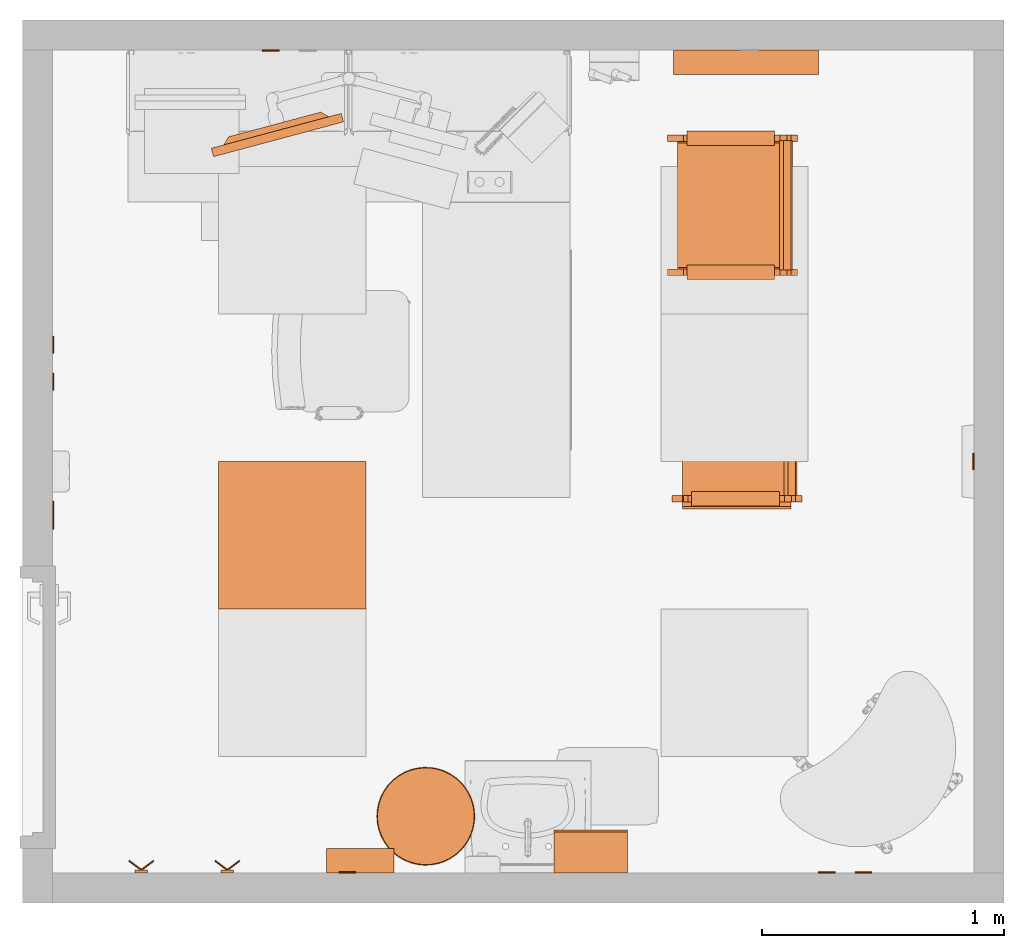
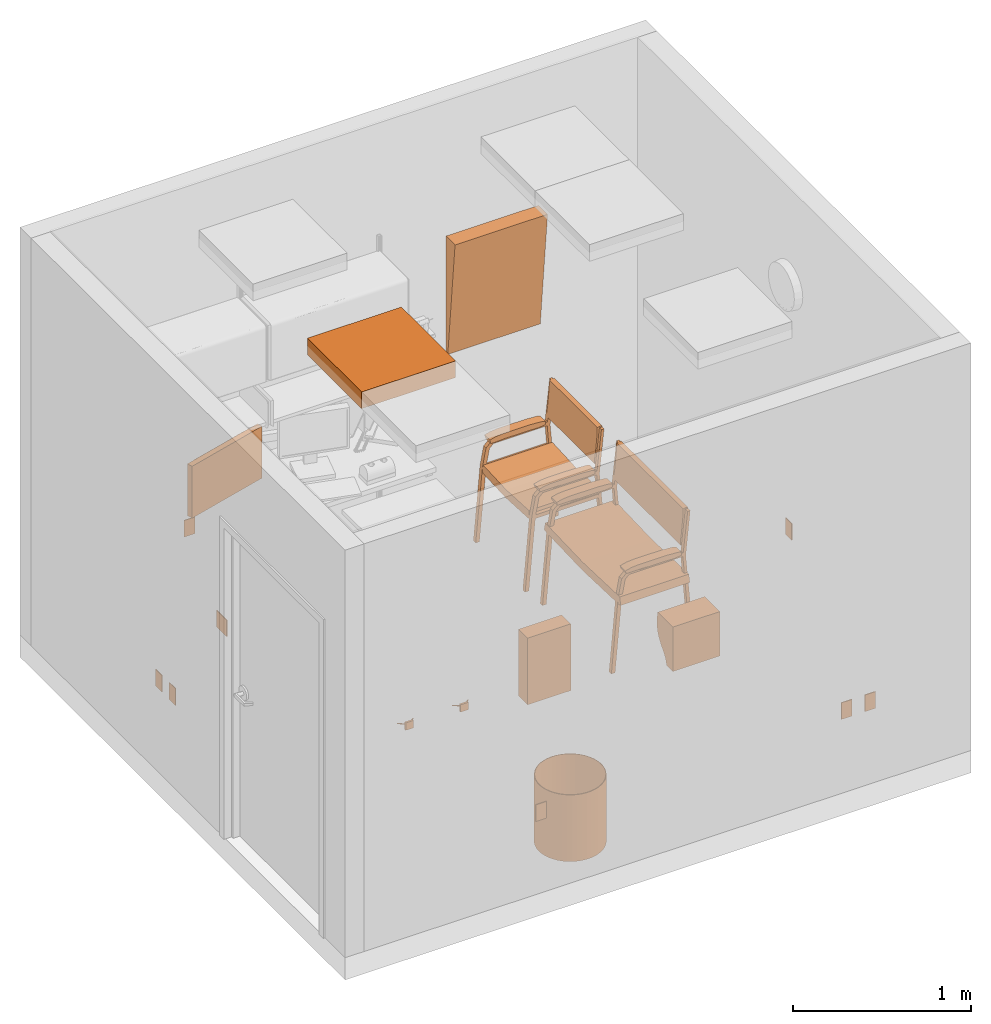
# One storey, part 5 of 9: 18 proxies.
"""IFC2X3 building model written with IfcOpenShell, lengths in feet."""

from ifc_helpers import new_model, entity, si_unit, converted_unit, derived_unit, direction, frame, frame_2d, origin, origin_2d_with_axis, place, context, subcontext, project, spatial, polyline, rectangle, circle, hollow_circle, outline, extrude, source, transform, mapped, type_object, type_shapes, element, save


model = new_model("IFC2X3")

# Units and contexts
model_context = context("Model", 3, precision=0.0001, world=origin(), true_north=direction((6.12303176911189e-17, 1.0)))
body_context = subcontext(model_context, "Body", "Model", "MODEL_VIEW")
ifc_project = project(units=[converted_unit("LENGTHUNIT", "FOOT", entity("IfcRatioMeasure", 0.3048), si_unit("LENGTHUNIT", "METRE"), dimensions=[1, 0, 0, 0, 0, 0, 0]), converted_unit("AREAUNIT", "SQUARE FOOT", entity("IfcRatioMeasure", 0.09290304), si_unit("AREAUNIT", "SQUARE_METRE"), dimensions=[2, 0, 0, 0, 0, 0, 0]), converted_unit("VOLUMEUNIT", "CUBIC FOOT", entity("IfcRatioMeasure", 0.028316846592), si_unit("VOLUMEUNIT", "CUBIC_METRE"), dimensions=[3, 0, 0, 0, 0, 0, 0]), converted_unit("PLANEANGLEUNIT", "DEGREE", entity("IfcRatioMeasure", 0.0174532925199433), si_unit("PLANEANGLEUNIT", "RADIAN"), dimensions=[0, 0, 0, 0, 0, 0, 0]), si_unit("MASSUNIT", "GRAM", prefix="KILO"), derived_unit("MASSDENSITYUNIT", [(si_unit("MASSUNIT", "GRAM", prefix="KILO"), 1), (si_unit("LENGTHUNIT", "METRE"), -3)]), si_unit("TIMEUNIT", "SECOND"), si_unit("FREQUENCYUNIT", "HERTZ"), si_unit("THERMODYNAMICTEMPERATUREUNIT", "DEGREE_CELSIUS"), derived_unit("THERMALTRANSMITTANCEUNIT", [(si_unit("MASSUNIT", "GRAM", prefix="KILO"), 1), (si_unit("THERMODYNAMICTEMPERATUREUNIT", "KELVIN"), -1), (si_unit("TIMEUNIT", "SECOND"), -3)]), derived_unit("VOLUMETRICFLOWRATEUNIT", [(si_unit("LENGTHUNIT", "METRE"), 3), (si_unit("TIMEUNIT", "SECOND"), -1)]), si_unit("ELECTRICCURRENTUNIT", "AMPERE"), si_unit("ELECTRICVOLTAGEUNIT", "VOLT"), si_unit("POWERUNIT", "WATT"), si_unit("FORCEUNIT", "NEWTON"), si_unit("ILLUMINANCEUNIT", "LUX"), si_unit("LUMINOUSFLUXUNIT", "LUMEN"), si_unit("LUMINOUSINTENSITYUNIT", "CANDELA"), derived_unit("USERDEFINED", [(si_unit("MASSUNIT", "GRAM", prefix="KILO"), -1), (si_unit("LENGTHUNIT", "METRE"), -2), (si_unit("TIMEUNIT", "SECOND"), 3), (si_unit("LUMINOUSFLUXUNIT", "LUMEN"), 1)]), derived_unit("LINEARVELOCITYUNIT", [(si_unit("LENGTHUNIT", "METRE"), 1), (si_unit("TIMEUNIT", "SECOND"), -1)]), si_unit("PRESSUREUNIT", "PASCAL"), derived_unit("USERDEFINED", [(si_unit("LENGTHUNIT", "METRE"), -2), (si_unit("MASSUNIT", "GRAM", prefix="KILO"), 1), (si_unit("TIMEUNIT", "SECOND"), -2)])], contexts=[model_context])

# Site, building, storey, space
site_placement = place(None, origin())
site = spatial("IfcSite", under=ifc_project, at=site_placement, Name="Default", CompositionType="ELEMENT")
building_placement = place(site_placement, origin())
building = spatial("IfcBuilding", under=site, at=building_placement, Name="AUDIOLOGY AND SPEECH PATHOLOGY (Ch. 204)", CompositionType="ELEMENT")
storey_placement = place(building_placement, frame((0.0, 0.0, 42.0)))
storey = spatial("IfcBuildingStorey", under=building, at=storey_placement, Name="AUD01 - Audiology Rehabilitation/Counseling", CompositionType="ELEMENT", Elevation=42.0)
space_placement = place(storey_placement, origin())
space = spatial("IfcSpace", under=storey, at=space_placement, Name="(AUD01)", CompositionType="ELEMENT", InteriorOrExteriorSpace="INTERNAL")

# Proxies
building_element_proxy_type_1 = type_object("IfcBuildingElementProxyType", Name="F0206 - Chair, Side, Bariatric, With Arms", PredefinedType="NOTDEFINED")
shared_shape_1 = source(origin(), body_context, "Body", "SweptSolid", [
    extrude(outline(polyline([(-0.525375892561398, -0.22108566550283), (-0.458078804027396, -0.22108566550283), (-0.207181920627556, -0.147567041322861), (0.350995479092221, 0.0555929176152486), (0.480353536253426, 0.11448774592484), (0.591192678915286, 0.190054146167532), (0.551062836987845, 0.246221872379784), (0.114629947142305, 0.0873732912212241), (0.281514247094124, 0.159069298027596), (-0.219577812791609, -0.0233132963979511), (-0.409888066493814, -0.0853441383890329), (-0.549646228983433, -0.154403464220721), (-0.525375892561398, -0.22108566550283)])), frame((-0.0140257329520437, -1.36732903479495, 2.23169271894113), z_axis=(0.0, 1.0, 0.0), x_axis=(0.939692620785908, 0.0, 0.34202014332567)), (0.0, 0.0, 1.0), 0.196499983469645),
    extrude(outline(polyline([(0.0166377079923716, -0.666422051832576), (0.0999710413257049, -0.666422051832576), (-0.0172324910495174, 0.673220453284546), (-0.0993762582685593, 0.659623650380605), (0.0166377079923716, -0.666422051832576)])), frame((-0.0157757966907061, -1.30726241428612, 1.61480726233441), z_axis=(0.0, 1.0, 0.0), x_axis=(0.0871557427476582, 0.0, -0.996194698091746)), (0.0, 0.0, 1.0), 0.0833333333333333),
    extrude(outline(polyline([(0.811855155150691, -1.61770011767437), (0.895188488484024, -1.61770011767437), (0.71143329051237, 0.489199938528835), (0.806416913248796, 1.46713632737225), (0.751033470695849, 1.46713632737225), (0.656855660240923, 0.571094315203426), (-0.516612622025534, 0.571094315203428), (-0.653571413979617, 0.441277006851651), (-0.728375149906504, 0.0391907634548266), (-0.871611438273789, -1.61770011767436), (-0.791571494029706, -1.61770011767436), (-0.646611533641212, 0.0391998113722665), (-0.578172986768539, 0.407071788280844), (-0.496044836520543, 0.48919993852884), (0.649788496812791, 0.489199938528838), (0.811855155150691, -1.61770011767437)])), frame((0.002897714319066, -1.3125, 1.61770011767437), z_axis=(0.0, 1.0, 0.0), x_axis=(-1.0, 0.0, 0.0)), (0.0, 0.0, 1.0), 0.0885709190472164),
    extrude(outline(polyline([(-0.104007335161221, -0.374369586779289), (-0.0277118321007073, -0.374369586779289), (-0.0197350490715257, -0.338348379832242), (0.00592434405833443, -0.182113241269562), (0.0162560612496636, -0.135457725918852), (0.045782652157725, -0.00212284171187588), (0.0856087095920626, 0.177721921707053), (0.112798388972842, 0.276572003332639), (0.120257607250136, 0.307674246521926), (0.129202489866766, 0.415216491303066), (0.0455811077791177, 0.433734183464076), (0.0167028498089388, 0.395704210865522), (-0.0364083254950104, 0.222671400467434), (-0.125070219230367, -0.177704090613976), (-0.136828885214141, -0.275386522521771), (-0.128352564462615, -0.369422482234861), (-0.104007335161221, -0.374369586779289)])), frame((-0.724492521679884, -1.22392908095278, 2.73061112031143), z_axis=(0.0, 1.0, 0.0), x_axis=(0.991475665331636, 0.0, -0.130291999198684)), (0.0, 0.0, 1.0), 2.44785816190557),
    extrude(outline(polyline([(-1.32676821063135, 0.0527806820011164), (-1.3765169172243, 0.0492842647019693), (-1.40814174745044, -0.118079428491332), (-1.33993034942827, -0.135060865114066), (0.00476598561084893, -0.135112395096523), (1.34611651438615, -0.0403126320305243), (1.41296185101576, -0.0185671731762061), (1.36962304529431, 0.146152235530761), (1.31975162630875, 0.146134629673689), (-0.00186179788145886, 0.0527806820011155), (-1.32676821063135, 0.0527806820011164)])), frame((-0.738902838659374, 0.0, 1.61978043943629), z_axis=(-1.0, 0.0, 0.0), x_axis=(0.0, -0.999378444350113, -0.035252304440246)), (0.0, 0.0, -1.0), 1.47211210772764),
    extrude(outline(polyline([(-0.525375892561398, -0.22108566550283), (-0.458078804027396, -0.22108566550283), (-0.207181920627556, -0.147567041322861), (0.350995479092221, 0.0555929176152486), (0.480353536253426, 0.11448774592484), (0.591192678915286, 0.190054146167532), (0.551062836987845, 0.246221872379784), (0.114629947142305, 0.0873732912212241), (0.281514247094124, 0.159069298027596), (-0.219577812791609, -0.023313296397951), (-0.409888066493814, -0.0853441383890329), (-0.549646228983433, -0.154403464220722), (-0.525375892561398, -0.22108566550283)])), frame((-0.0140257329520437, 1.1708290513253, 2.23169271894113), z_axis=(0.0, 1.0, 0.0), x_axis=(0.939692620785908, 0.0, 0.34202014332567)), (0.0, 0.0, 1.0), 0.196499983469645),
    extrude(outline(polyline([(0.016637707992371, -0.666422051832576), (0.0999710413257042, -0.666422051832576), (-0.0172324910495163, 0.673220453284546), (-0.0993762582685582, 0.659623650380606), (0.016637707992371, -0.666422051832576)])), frame((-0.0157757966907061, 1.22392908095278, 1.61480726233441), z_axis=(0.0, 1.0, 0.0), x_axis=(0.0871557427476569, 0.0, -0.996194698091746)), (0.0, 0.0, 1.0), 0.0833333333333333),
    extrude(outline(polyline([(0.811855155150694, -1.61770011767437), (0.895188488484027, -1.61770011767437), (0.711433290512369, 0.489199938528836), (0.806416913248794, 1.46713632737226), (0.751033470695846, 1.46713632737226), (0.656855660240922, 0.571094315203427), (-0.516612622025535, 0.571094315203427), (-0.653571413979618, 0.441277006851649), (-0.728375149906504, 0.0391907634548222), (-0.871611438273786, -1.61770011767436), (-0.791571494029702, -1.61770011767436), (-0.646611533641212, 0.0391998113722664), (-0.57817298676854, 0.407071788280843), (-0.496044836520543, 0.489199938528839), (0.64978849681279, 0.489199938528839), (0.811855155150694, -1.61770011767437)])), frame((0.00289771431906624, 1.22392908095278, 1.61770011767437), z_axis=(0.0, 1.0, 0.0), x_axis=(-1.0, 0.0, 0.0)), (0.0, 0.0, 1.0), 0.0885709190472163),
])
type_shapes(building_element_proxy_type_1, [shared_shape_1])
proxy_1_placement = place(space_placement, frame((8.45229296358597, 6.94218622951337, 0.0), z_axis=(0.0, 0.0, 1.0), x_axis=(-1.0, 0.0, 0.0)))
element("IfcBuildingElementProxy", 1, at=proxy_1_placement, inside=space, type_object=building_element_proxy_type_1, Name="F0206 - Chair, Side, Bariatric, With Arms:F0206 - Chair, Side, Bariatric, With Arms", ObjectType="F0206 - Chair, Side, Bariatric, With Arms", context=body_context, shape_type="MappedRepresentation", body=[
    mapped(shared_shape_1, transform((0.0, 0.0, 0.0), scale=1.0)),
])
building_element_proxy_type_2 = type_object("IfcBuildingElementProxyType", Name="A5082 - Dispenser, Paper Towel, Sensor, Hands Free", PredefinedType="NOTDEFINED")
shared_shape_2 = source(origin(), body_context, "Body", "SweptSolid", [
    extrude(outline(polyline([(-0.394840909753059, -0.5716804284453), (0.162901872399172, -0.5716804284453), (0.181242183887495, -0.466986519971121), (0.189922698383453, -0.373421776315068), (0.189954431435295, -0.2899834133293), (0.182348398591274, -0.215668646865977), (0.168115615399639, -0.149474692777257), (0.148267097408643, -0.0903987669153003), (0.123813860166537, -0.0374380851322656), (0.095766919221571, 0.0104101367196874), (0.0651372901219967, 0.0541486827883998), (0.0329359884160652, 0.0947803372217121), (0.000174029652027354, 0.133307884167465), (-0.0321375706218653, 0.1707341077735), (-0.0629877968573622, 0.208061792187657), (-0.0913656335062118, 0.246293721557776), (-0.116260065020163, 0.2864326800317), (-0.136660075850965, 0.329481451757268), (-0.151554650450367, 0.376442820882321), (-0.159932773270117, 0.4283195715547), (-0.394840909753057, 0.428319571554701), (-0.394840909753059, -0.5716804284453)])), frame((0.0, -0.394840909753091, 0.428319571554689), z_axis=(1.0, 0.0, 0.0), x_axis=(0.0, -1.0, 0.0)), (0.0, 0.0, 1.0), 1.0),
])
type_shapes(building_element_proxy_type_2, [shared_shape_2])
proxy_2_placement = place(space_placement, frame((6.97770139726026, 0.593750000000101, 3.66666666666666), z_axis=(0.0, 0.0, 1.0), x_axis=(-1.0, 0.0, 0.0)))
element("IfcBuildingElementProxy", 2, at=proxy_2_placement, inside=space, type_object=building_element_proxy_type_2, Name="A5082 - Dispenser, Paper Towel, Sensor, Hands Free:A5082 - Dispenser, Paper Towel, Sensor, Hands Free", ObjectType="A5082 - Dispenser, Paper Towel, Sensor, Hands Free", context=body_context, shape_type="MappedRepresentation", body=[
    mapped(shared_shape_2, transform((0.0, 0.0, 0.0), scale=1.0)),
])
building_element_proxy_type_3 = type_object("IfcBuildingElementProxyType", Name="F0205 - Chair, Side With Arms", PredefinedType="NOTDEFINED")
shared_shape_3 = source(origin(), body_context, "Body", "SweptSolid", [
    extrude(outline(polyline([(-0.104007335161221, -0.374369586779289), (-0.027711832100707, -0.374369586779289), (-0.0197350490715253, -0.338348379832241), (0.00592434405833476, -0.182113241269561), (0.0162560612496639, -0.135457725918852), (0.0457826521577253, -0.00212284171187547), (0.0856087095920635, 0.177721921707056), (0.112798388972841, 0.276572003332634), (0.120257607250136, 0.307674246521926), (0.129202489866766, 0.415216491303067), (0.045581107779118, 0.433734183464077), (0.0167028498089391, 0.395704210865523), (-0.0364083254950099, 0.222671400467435), (-0.125070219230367, -0.177704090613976), (-0.13682888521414, -0.27538652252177), (-0.128352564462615, -0.36942248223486), (-0.104007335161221, -0.374369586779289)])), frame((-0.891159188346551, -0.878769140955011, 2.73061112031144), z_axis=(0.0, 1.0, 0.0), x_axis=(0.991475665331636, 0.0, -0.130291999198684)), (0.0, 0.0, 1.0), 1.75919993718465),
    extrude(outline(polyline([(0.0907668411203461, -0.842703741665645), (0.261538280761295, -0.842703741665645), (0.265730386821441, -0.773999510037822), (0.127479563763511, 0.0287496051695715), (-0.0923338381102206, 0.813085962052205), (-0.125373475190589, 0.873420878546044), (-0.279635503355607, 0.800086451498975), (-0.270660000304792, 0.752608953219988), (-0.0560029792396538, -0.0126173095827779), (0.0784907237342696, -0.795927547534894), (0.0907668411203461, -0.842703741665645)])), frame((-0.90556950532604, 0.000822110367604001, 1.62079321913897), z_axis=(1.0, 0.0, 0.0), x_axis=(0.0, -0.219936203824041, -0.975514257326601)), (0.0, 0.0, 1.0), 1.47211210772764),
    extrude(outline(polyline([(-0.552031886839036, -0.234422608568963), (-0.484734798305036, -0.234422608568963), (-0.233837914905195, -0.160903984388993), (0.324339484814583, 0.0422559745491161), (0.453697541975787, 0.101150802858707), (0.564536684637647, 0.176717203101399), (0.51204038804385, 0.250193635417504), (0.420212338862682, 0.216770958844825), (0.254858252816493, 0.145732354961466), (-0.246233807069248, -0.0366502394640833), (-0.436544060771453, -0.0986810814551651), (-0.576302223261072, -0.167740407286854), (-0.552031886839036, -0.234422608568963)])), frame((-0.1510824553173, -1.00916916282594, 2.22827697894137), z_axis=(0.0, 1.0, 0.0), x_axis=(0.939692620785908, 0.0, 0.34202014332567)), (0.0, 0.0, 1.0), 0.198199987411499),
    extrude(outline(polyline([(-0.525375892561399, -0.221085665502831), (-0.458078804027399, -0.221085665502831), (-0.207181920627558, -0.147567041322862), (0.350995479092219, 0.0555929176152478), (0.480353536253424, 0.114487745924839), (0.591192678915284, 0.190054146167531), (0.551062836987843, 0.246221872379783), (0.114629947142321, 0.0873732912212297), (0.281514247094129, 0.159069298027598), (-0.219577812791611, -0.0233132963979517), (-0.409888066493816, -0.0853441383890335), (-0.549646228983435, -0.154403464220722), (-0.525375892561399, -0.221085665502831)])), frame((-0.180692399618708, 0.814330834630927, 2.23169271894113), z_axis=(0.0, 1.0, 0.0), x_axis=(0.939692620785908, 0.0, 0.34202014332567)), (0.0, 0.0, 1.0), 0.196499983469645),
    extrude(outline(polyline([(0.0166377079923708, -0.666422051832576), (0.099971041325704, -0.666422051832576), (-0.0172324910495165, 0.673220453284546), (-0.0993762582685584, 0.659623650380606), (0.0166377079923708, -0.666422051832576)])), frame((-0.182442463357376, -0.954369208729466, 1.61480726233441), z_axis=(0.0, 1.0, 0.0), x_axis=(0.0871557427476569, 0.0, -0.996194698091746)), (0.0, 0.0, 1.0), 0.0833333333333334),
    extrude(outline(polyline([(0.0166377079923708, -0.666422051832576), (0.099971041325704, -0.666422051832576), (-0.0172324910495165, 0.673220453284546), (-0.0993762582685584, 0.659623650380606), (0.0166377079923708, -0.666422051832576)])), frame((-0.182442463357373, 0.867430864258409, 1.61480726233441), z_axis=(0.0, 1.0, 0.0), x_axis=(0.0871557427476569, 0.0, -0.996194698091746)), (0.0, 0.0, 1.0), 0.0833333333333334),
    extrude(outline(polyline([(0.811855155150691, -1.61770011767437), (0.895188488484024, -1.61770011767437), (0.71143329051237, 0.489199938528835), (0.806416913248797, 1.46713632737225), (0.751033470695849, 1.46713632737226), (0.656855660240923, 0.571094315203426), (-0.516612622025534, 0.571094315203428), (-0.653571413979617, 0.441277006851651), (-0.728375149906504, 0.0391907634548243), (-0.871611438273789, -1.61770011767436), (-0.791571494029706, -1.61770011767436), (-0.646611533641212, 0.0391998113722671), (-0.578172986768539, 0.407071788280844), (-0.496044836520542, 0.48919993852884), (0.649788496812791, 0.489199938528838), (0.811855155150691, -1.61770011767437)])), frame((-0.163768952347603, -0.954369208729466, 1.61770011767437), z_axis=(0.0, 1.0, 0.0), x_axis=(-1.0, 0.0, 0.0)), (0.0, 0.0, 1.0), 0.0885709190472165),
    extrude(outline(polyline([(0.811855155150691, -1.61770011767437), (0.895188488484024, -1.61770011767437), (0.71143329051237, 0.489199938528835), (0.806416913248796, 1.46713632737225), (0.751033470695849, 1.46713632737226), (0.656855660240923, 0.571094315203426), (-0.516612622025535, 0.571094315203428), (-0.653571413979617, 0.441277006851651), (-0.728375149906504, 0.0391907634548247), (-0.871611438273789, -1.61770011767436), (-0.791571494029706, -1.61770011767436), (-0.646611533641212, 0.0391998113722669), (-0.578172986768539, 0.407071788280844), (-0.496044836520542, 0.48919993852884), (0.649788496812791, 0.489199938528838), (0.811855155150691, -1.61770011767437)])), frame((-0.1637689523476, 0.867430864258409, 1.61770011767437), z_axis=(0.0, 1.0, 0.0), x_axis=(-1.0, 0.0, 0.0)), (0.0, 0.0, 1.0), 0.0885709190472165),
])
type_shapes(building_element_proxy_type_3, [shared_shape_3])
proxy_3_placement = place(space_placement, frame((8.22295773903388, 9.65436291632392, 0.0), z_axis=(0.0, 0.0, 1.0), x_axis=(-1.0, 0.0, 0.0)))
element("IfcBuildingElementProxy", 3, at=proxy_3_placement, inside=space, type_object=building_element_proxy_type_3, Name="F0205 - Chair, Side With Arms:F0205 - Chair, Side With Arms", ObjectType="F0205 - Chair, Side With Arms", context=body_context, shape_type="MappedRepresentation", body=[
    mapped(shared_shape_3, transform((0.0, 0.0, 0.0), scale=1.0)),
])
building_element_proxy_type_4 = type_object("IfcBuildingElementProxyType", Name="A5145 - Hook, Garment, Double 4\" x 2\" Typical Height (5'-6\")", PredefinedType="NOTDEFINED")
shared_shape_4 = source(origin(), body_context, "Body", "SweptSolid", [
    extrude(circle(Radius=0.0105952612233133, at=origin_2d_with_axis()), frame((-0.169086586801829, -0.168481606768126, 5.41666666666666), z_axis=(0.799999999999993, 0.60000000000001, 0.0), x_axis=(-0.60000000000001, 0.799999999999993, 0.0)), (0.0, 0.0, 1.0), 0.211358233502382),
    extrude(circle(Radius=0.0105952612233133, at=frame_2d((5.20417042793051e-19, 3.42113882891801e-49), x_axis=(1.0, 0.0))), frame((0.0, -0.0416666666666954, 5.41666666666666), z_axis=(0.799999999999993, -0.60000000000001, 0.0), x_axis=(0.60000000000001, 0.799999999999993, 0.0)), (0.0, 0.0, 1.0), 0.211358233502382),
    extrude(rectangle(XDim=0.0416666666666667, YDim=0.166666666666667, at=origin_2d_with_axis()), frame((0.0, -0.0208333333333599, 5.33333333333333), z_axis=(0.0, 0.0, 1.0), x_axis=(0.0, 1.0, 0.0)), (0.0, 0.0, 1.0), 0.166666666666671),
])
type_shapes(building_element_proxy_type_4, [shared_shape_4])
for number, where, z_axis, x_axis in (
    (4, (0.380208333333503, 0.5937500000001, -1.0), (0.0, 0.0, 1.0), (-1.0, 0.0, 0.0)),
    (5, (1.54687500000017, 0.593750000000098, -1.0), (0.0, 0.0, 1.0), (-1.0, 0.0, 0.0)),
):
    element("IfcBuildingElementProxy", number, at=place(space_placement, frame(where, z_axis=z_axis, x_axis=x_axis)), inside=space, type_object=building_element_proxy_type_4, Name="A5145 - Hook, Garment, Double, SS, Surface Mounted:A5145 - Hook, Garment, Double 4\" x 2\" Typical Height (5'-6\")", ObjectType="A5145 - Hook, Garment, Double 4\" x 2\" Typical Height (5'-6\")", context=body_context, shape_type="MappedRepresentation", body=[
        mapped(shared_shape_4, transform((0.0, 0.0, 0.0), scale=1.0)),
    ])
building_element_proxy_type_5 = type_object("IfcBuildingElementProxyType", Name="Round, Metal", PredefinedType="NOTDEFINED")
shared_shape_5 = source(origin(), body_context, "Body", "SweptSolid", [
    extrude(circle(Radius=0.666666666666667, at=frame_2d((0.0, -1.07702971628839e-15), x_axis=(1.0, 0.0))), origin(), (0.0, 0.0, 1.0), 0.0104166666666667),
    extrude(hollow_circle(Radius=0.666666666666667, WallThickness=0.0104166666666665, at=frame_2d((0.0, -1.07702971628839e-15), x_axis=(1.0, 0.0))), frame((0.0, 0.0, 0.0104166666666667)), (0.0, 0.0, 1.0), 1.48958333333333),
])
type_shapes(building_element_proxy_type_5, [shared_shape_5])
proxy_4_placement = place(space_placement, frame((4.23958333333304, 1.36458333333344, 0.0), z_axis=(0.0, 0.0, 1.0), x_axis=(-1.0, 0.0, 0.0)))
element("IfcBuildingElementProxy", 6, at=proxy_4_placement, inside=space, type_object=building_element_proxy_type_5, Name="F2000 - Basket, Wastepaper:Round, Metal", ObjectType="Round, Metal", context=body_context, shape_type="MappedRepresentation", body=[
    mapped(shared_shape_5, transform((0.0, 0.0, 0.0), scale=1.0)),
])
building_element_proxy_type_6 = type_object("IfcBuildingElementProxyType", Name="M1800 - Monitor, Computer", PredefinedType="NOTDEFINED")
shared_shape_6 = source(origin(), body_context, "Body", "SweptSolid", [
    extrude(outline(polyline([(-0.648704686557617, -0.0446704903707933), (0.648704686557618, -0.0446704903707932), (0.738045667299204, 0.0446704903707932), (-0.738045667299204, 0.0446704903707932), (-0.648704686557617, -0.0446704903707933)])), frame((-0.954635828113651, -0.0554824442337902, 0.255437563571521), z_axis=(0.0, 0.0, 1.0), x_axis=(-0.965925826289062, -0.258819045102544, 0.0)), (0.0, 0.0, 1.0), 0.999999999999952),
    extrude(rectangle(XDim=1.82500000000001, YDim=0.118992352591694, at=frame_2d((-1.11022302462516e-16, 0.0), x_axis=(1.0, 0.0))), frame((-0.92820680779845, -0.156242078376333, 0.172104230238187), z_axis=(0.0, 0.0, 1.0), x_axis=(-0.965925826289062, -0.258819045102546, 0.0)), (0.0, 0.0, 1.0), 1.16666666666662),
])
type_shapes(building_element_proxy_type_6, [shared_shape_6])
proxy_5_placement = place(space_placement, frame((3.15467039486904, 10.7618701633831, 2.66666666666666)))
element("IfcBuildingElementProxy", 7, at=proxy_5_placement, inside=space, type_object=building_element_proxy_type_6, Name="M1800 - Monitor, Computer:M1800 - Monitor, Computer", ObjectType="M1800 - Monitor, Computer", context=body_context, shape_type="MappedRepresentation", body=[
    mapped(shared_shape_6, transform((0.0, 0.0, 0.0), scale=1.0)),
])
building_element_proxy_type_7 = type_object("IfcBuildingElementProxyType", Name="24\" x 24\"", PredefinedType="NOTDEFINED")
shared_shape_7 = source(origin(), body_context, "Body", "SweptSolid", [
    extrude(rectangle(XDim=2.0, YDim=2.0, at=origin_2d_with_axis()), frame((0.0, 0.0, 8.0)), (0.0, 0.0, 1.0), 0.375),
])
type_shapes(building_element_proxy_type_7, [shared_shape_7])
proxy_6_placement = place(space_placement, frame((2.42708333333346, 5.17708333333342, 1.0)))
element("IfcBuildingElementProxy", 8, at=proxy_6_placement, inside=space, type_object=building_element_proxy_type_7, Name="Return Register:24\" x 24\"", ObjectType="24\" x 24\"", context=body_context, shape_type="MappedRepresentation", body=[
    mapped(shared_shape_7, transform((0.0, 0.0, 0.0), scale=1.0)),
])
building_element_proxy_type_8 = type_object("IfcBuildingElementProxyType", Name="A1067 - Mirror, Float Glass, ADA Accessible", PredefinedType="NOTDEFINED")
shared_shape_8 = source(origin(), body_context, "Body", "SweptSolid", [
    extrude(outline(polyline([(-0.0997375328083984, -1.31233595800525), (0.233595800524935, -1.31233595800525), (-0.0341207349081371, 1.31233595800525), (-0.0997375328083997, 1.31233595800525), (-0.0997375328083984, -1.31233595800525)])), frame((0.0, -0.0997375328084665, 1.31266404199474), z_axis=(1.0, 0.0, 0.0), x_axis=(0.0, -1.0, 0.0)), (0.0, 0.0, 1.0), 1.96850393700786),
])
type_shapes(building_element_proxy_type_8, [shared_shape_8])
proxy_7_placement = place(space_placement, frame((7.59908136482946, 11.7604166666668, 3.5)))
element("IfcBuildingElementProxy", 9, at=proxy_7_placement, inside=space, type_object=building_element_proxy_type_8, Name="A1067 - Mirror, Float Glass, ADA Accessible:A1067 - Mirror, Float Glass, ADA Accessible", ObjectType="A1067 - Mirror, Float Glass, ADA Accessible", context=body_context, shape_type="MappedRepresentation", body=[
    mapped(shared_shape_8, transform((0.0, 0.0, 0.0), scale=1.0)),
])
building_element_proxy_type_9 = type_object("IfcBuildingElementProxyType", Name="Double", PredefinedType="NOTDEFINED")
shared_shape_9 = source(origin(), body_context, "Body", "SweptSolid", [
    extrude(rectangle(XDim=0.0156249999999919, YDim=0.375, at=origin_2d_with_axis()), frame((0.0, 0.210937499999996, 0.0), z_axis=(0.0, 0.0, 1.0), x_axis=(0.0, 1.0, 0.0)), (0.0, 0.0, 1.0), 0.375),
])
type_shapes(building_element_proxy_type_9, [shared_shape_9])
proxy_8_placement = place(space_placement, frame((-1.02604166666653, 5.4479166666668, 4.0), z_axis=(0.0, 0.0, 1.0), x_axis=(0.0, -1.0, 0.0)))
element("IfcBuildingElementProxy", 10, at=proxy_8_placement, inside=space, type_object=building_element_proxy_type_9, Name="Switch, Multiple:Double", ObjectType="Double", context=body_context, shape_type="MappedRepresentation", body=[
    mapped(shared_shape_9, transform((0.0, 0.0, 0.0), scale=1.0)),
])
building_element_proxy_type_10 = type_object("IfcBuildingElementProxyType", Name="A5107 - Dispenser, Glove, Surgical-Examination, Wall Mntd", PredefinedType="NOTDEFINED")
shared_shape_10 = source(origin(), body_context, "Body", "SweptSolid", [
    extrude(rectangle(XDim=0.916666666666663, YDim=0.333333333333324, at=frame_2d((0.0, 2.77555756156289e-17), x_axis=(1.0, 0.0))), frame((0.0, -0.166666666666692, 0.0), z_axis=(0.0, 0.0, 1.0), x_axis=(-1.0, 0.0, 0.0)), (0.0, 0.0, 1.0), 1.5),
])
type_shapes(building_element_proxy_type_10, [shared_shape_10])
proxy_9_placement = place(space_placement, frame((3.34761609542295, 0.593750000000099, 4.0), z_axis=(0.0, 0.0, 1.0), x_axis=(-1.0, 0.0, 0.0)))
element("IfcBuildingElementProxy", 11, at=proxy_9_placement, inside=space, type_object=building_element_proxy_type_10, Name="A5107 - Dispenser, Glove, Surgical-Examination, Wall Mntd:A5107 - Dispenser, Glove, Surgical-Examination, Wall Mntd", ObjectType="A5107 - Dispenser, Glove, Surgical-Examination, Wall Mntd", context=body_context, shape_type="MappedRepresentation", body=[
    mapped(shared_shape_10, transform((0.0, 0.0, 0.0), scale=1.0)),
])
building_element_proxy_type_11 = type_object("IfcBuildingElementProxyType", Name="Duplex", PredefinedType="NOTDEFINED")
shared_shape_11 = source(origin(), body_context, "Body", "SweptSolid", [
    extrude(rectangle(XDim=0.0156249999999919, YDim=0.229166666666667, at=origin_2d_with_axis()), frame((0.0, 0.210937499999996, 0.0), z_axis=(0.0, 0.0, 1.0), x_axis=(0.0, 1.0, 0.0)), (0.0, 0.0, 1.0), 0.37500000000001),
])
type_shapes(building_element_proxy_type_11, [shared_shape_11])
proxy_10_placement = place(space_placement, frame((10.1770833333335, 0.390625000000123, 1.33333333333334)))
element("IfcBuildingElementProxy", 12, at=proxy_10_placement, inside=space, type_object=building_element_proxy_type_11, Name="Outlet, Duplex, Wall:Duplex", ObjectType="Duplex", context=body_context, shape_type="MappedRepresentation", body=[
    mapped(shared_shape_11, transform((0.0, 0.0, 0.0), scale=1.0)),
])
proxy_11_placement = place(space_placement, frame((-1.02604166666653, 7.7604166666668, 1.3125), z_axis=(0.0, 0.0, 1.0), x_axis=(0.0, -1.0, 0.0)))
element("IfcBuildingElementProxy", 13, at=proxy_11_placement, inside=space, type_object=building_element_proxy_type_11, Name="Outlet, Duplex, Wall:Duplex", ObjectType="Duplex", context=body_context, shape_type="MappedRepresentation", body=[
    mapped(shared_shape_11, transform((0.0, 0.0, 0.0), scale=1.0)),
])
proxy_12_placement = place(space_placement, frame((3.17708333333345, 0.390625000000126, 1.3125)))
element("IfcBuildingElementProxy", 14, at=proxy_12_placement, inside=space, type_object=building_element_proxy_type_11, Name="Outlet, Duplex, Wall:Duplex", ObjectType="Duplex", context=body_context, shape_type="MappedRepresentation", body=[
    mapped(shared_shape_11, transform((0.0, 0.0, 0.0), scale=1.0)),
])
proxy_13_placement = place(space_placement, frame((11.8802083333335, 6.17708333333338, 1.3125), z_axis=(0.0, 0.0, 1.0), x_axis=(0.0, 1.0, 0.0)))
element("IfcBuildingElementProxy", 15, at=proxy_13_placement, inside=space, type_object=building_element_proxy_type_11, Name="Outlet, Duplex, Wall:Duplex", ObjectType="Duplex", context=body_context, shape_type="MappedRepresentation", body=[
    mapped(shared_shape_11, transform((0.0, 0.0, 0.0), scale=1.0)),
])
building_element_proxy_type_12 = type_object("IfcBuildingElementProxyType", Name="Telephone/Data", PredefinedType="NOTDEFINED")
shared_shape_12 = source(origin(), body_context, "Body", "SweptSolid", [
    extrude(rectangle(XDim=0.0156249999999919, YDim=0.229166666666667, at=origin_2d_with_axis()), frame((0.0, 0.210937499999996, 0.0), z_axis=(0.0, 0.0, 1.0), x_axis=(0.0, 1.0, 0.0)), (0.0, 0.0, 1.0), 0.375),
])
type_shapes(building_element_proxy_type_12, [shared_shape_12])
proxy_14_placement = place(space_placement, frame((9.67708333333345, 0.390625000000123, 1.33333333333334)))
element("IfcBuildingElementProxy", 16, at=proxy_14_placement, inside=space, type_object=building_element_proxy_type_12, Name="Outlet, Communications:Telephone/Data", ObjectType="Telephone/Data", context=body_context, shape_type="MappedRepresentation", body=[
    mapped(shared_shape_12, transform((0.0, 0.0, 0.0), scale=1.0)),
])
for number, where, z_axis, x_axis, name in (
    (17, (-1.02604166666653, 7.2604166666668, 1.3125), (0.0, 0.0, 1.0), (0.0, -1.0, 0.0), "Outlet, Communications:Telephone/Data"),
    (18, (2.13541666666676, 11.9635416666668, 1.3125), (0.0, 0.0, 1.0), (-1.0, 0.0, 0.0), "Outlet, Communications:Telephone/Data"),
):
    element("IfcBuildingElementProxy", number, at=place(space_placement, frame(where, z_axis=z_axis, x_axis=x_axis)), inside=space, type_object=building_element_proxy_type_12, Name=name, ObjectType="Telephone/Data", context=body_context, shape_type="MappedRepresentation", body=[
        mapped(shared_shape_12, transform((0.0, 0.0, 0.0), scale=1.0)),
    ])

save(model, "model.ifc")
